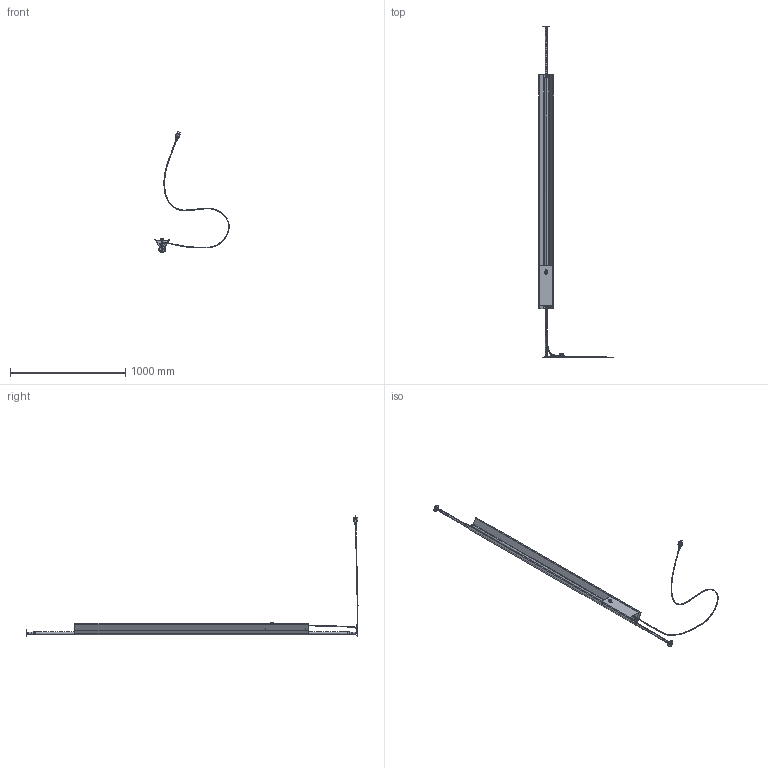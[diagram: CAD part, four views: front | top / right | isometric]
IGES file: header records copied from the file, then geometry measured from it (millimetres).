
Start section: SolidWorks IGES file using analytic representation for surfaces
Global section: file name: H:\Drive condivisi\Ufficio Tecnico\Graphics\Files 3D for Sito Web\LT8\ATP-T13-F101-R00_27.IGS; native system: SolidWorks 2023; preprocessor: SolidWorks 2023; author: Tecnico; date: 230627.145407; units: millimetre
Bounding box: 646.02 x 2883.79 x 1051.7 mm (x, y, z)
Surface area: 1745719.6 mm2 (no closed solid volume)
Topology: 0 solids, 0 shells, 1151 faces, 18934 edges, 18833 vertices
Faces by surface type: revolution 628, bspline 523
